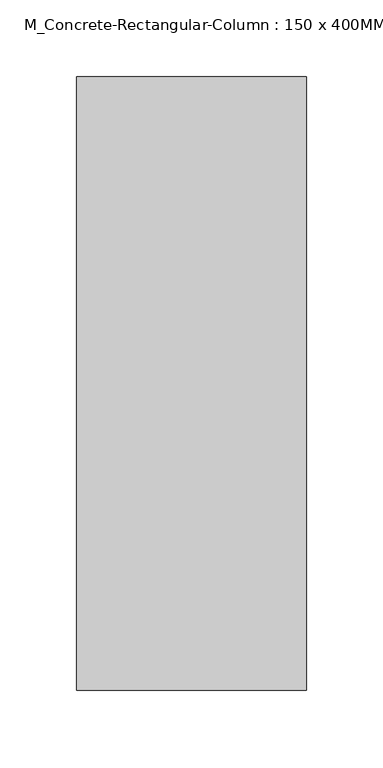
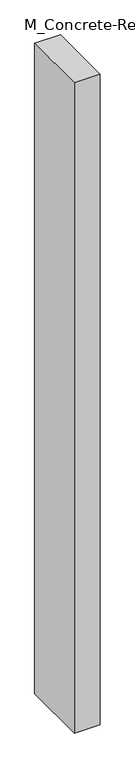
"""IFC4 building model written with IfcOpenShell, lengths in millimetres: column geometry, M_Concrete-Rectangular-Column : 150 x 400MM."""

from ifc_helpers import new_model, si_unit, frame, origin, place, context, project, spatial, polyline, outline, extrude, source, transform, mapped, element, save


def m_concrete_rectangular_column_150_x_400mm_822603aa(model_context):
    return source(origin(), model_context, "Body", "SweptSolid", [
        extrude(outline(polyline([(75.0, 200.0), (75.0, -200.0), (-75.0, -200.0), (-75.0, 200.0), (75.0, 200.0)])), frame((0.0, 0.0, 4.8), z_axis=(0.0, 0.0, 1.0), x_axis=(1.0, 0.0, 0.0)), (0.0, 0.0, 1.0), 3995.2),
    ])


if __name__ == "__main__":
    model = new_model("IFC4")
    model_context = context("Model", 3, world=origin())
    ifc_project = project(units=[si_unit("LENGTHUNIT", "METRE", prefix="MILLI")], contexts=[model_context])
    site = spatial("IfcSite", under=ifc_project)
    building = spatial("IfcBuilding", under=site)
    placement = place(None, origin())
    m_concrete_rectangular_column_150_x_400mm_shape = m_concrete_rectangular_column_150_x_400mm_822603aa(model_context)
    element("IfcColumn", 1, ObjectType="M_Concrete-Rectangular-Column : 150 x 400MM", at=placement, inside=building, context=model_context, shape_type="MappedRepresentation", body=[
        mapped(m_concrete_rectangular_column_150_x_400mm_shape, transform((0.0, 0.0, 0.0), x_axis=(1.0, 0.0, 0.0), y_axis=(0.0, 1.0, 0.0), z_axis=(0.0, 0.0, 1.0))),
    ])
    save(model, "model.ifc")
